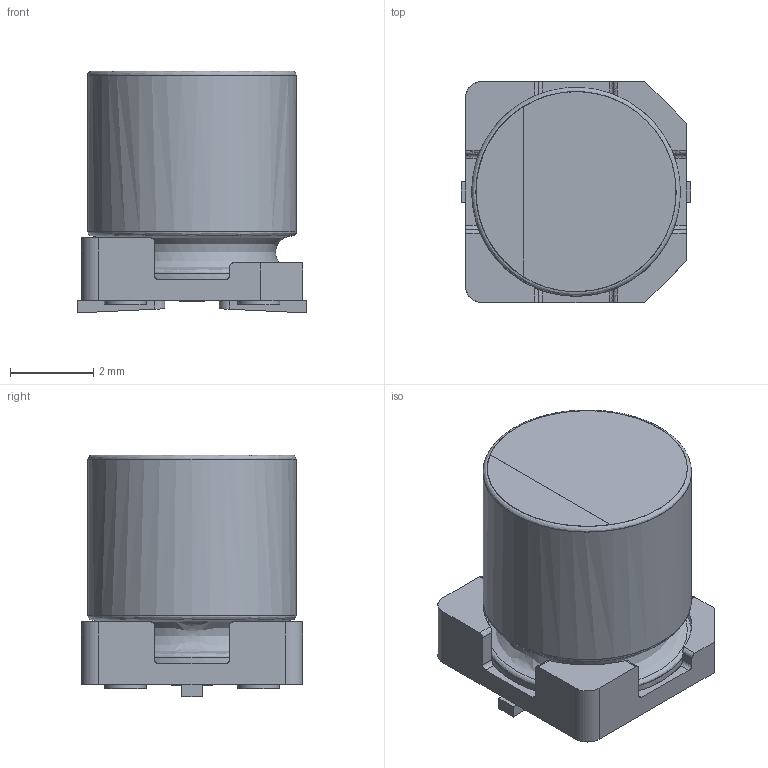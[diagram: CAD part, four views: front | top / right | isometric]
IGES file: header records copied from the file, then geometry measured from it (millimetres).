
Start section: JAMA-IS VERSION  1.0
Bounding box: 5.5 x 5.3 x 5.8 mm (x, y, z)
Surface area: 218.3 mm2 (no closed solid volume)
Topology: 0 solids, 0 shells, 81 faces, 944 edges, 926 vertices
Faces by surface type: bspline 81
